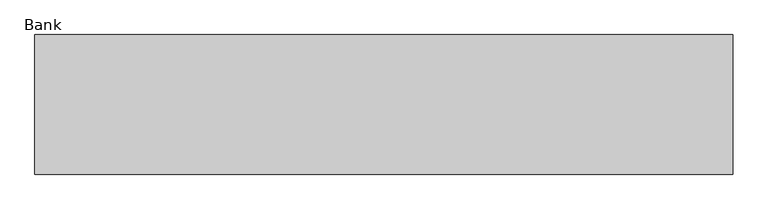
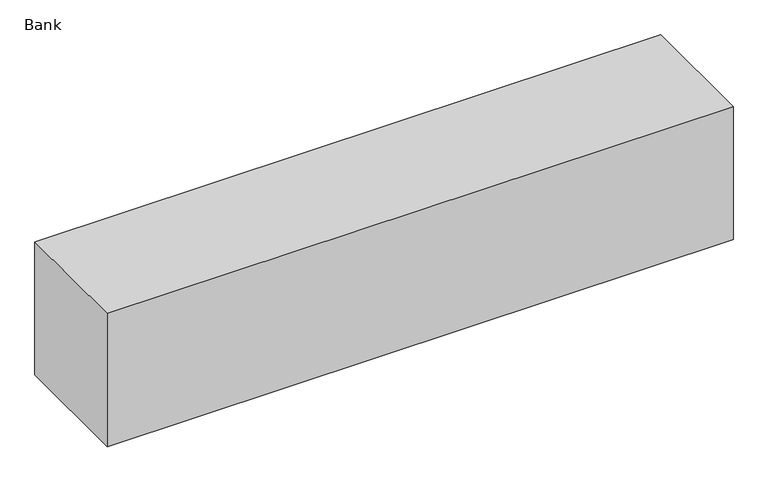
"""IFC4 building model written with IfcOpenShell, lengths in millimetres: furniture geometry, Mobile Ausstattung Bank : Bank."""

from ifc_helpers import new_model, si_unit, origin, origin_with_axes, place, context, project, spatial, polyline, outline, extrude, source, transform, mapped, element, save


def bank_31ef46f5(model_context):
    return source(origin(), model_context, "Body", "SweptSolid", [
        extrude(outline(polyline([(1000.0, 200.0), (1000.0, -200.0), (-1000.0, -200.0), (-1000.0, 200.0), (1000.0, 200.0)])), origin_with_axes(), (0.0, 0.0, 1.0), 450.0),
    ])


if __name__ == "__main__":
    model = new_model("IFC4")
    model_context = context("Model", 3, world=origin())
    ifc_project = project(units=[si_unit("LENGTHUNIT", "METRE", prefix="MILLI")], contexts=[model_context])
    site = spatial("IfcSite", under=ifc_project)
    building = spatial("IfcBuilding", under=site)
    placement = place(None, origin())
    bank_shape = bank_31ef46f5(model_context)
    element("IfcFurniture", 1, ObjectType="Mobile Ausstattung Bank : Bank", at=placement, inside=building, context=model_context, shape_type="MappedRepresentation", body=[
        mapped(bank_shape, transform((0.0, 0.0, 0.0), x_axis=(1.0, 0.0, 0.0), y_axis=(0.0, 1.0, 0.0), z_axis=(0.0, 0.0, 1.0))),
    ])
    save(model, "model.ifc")
